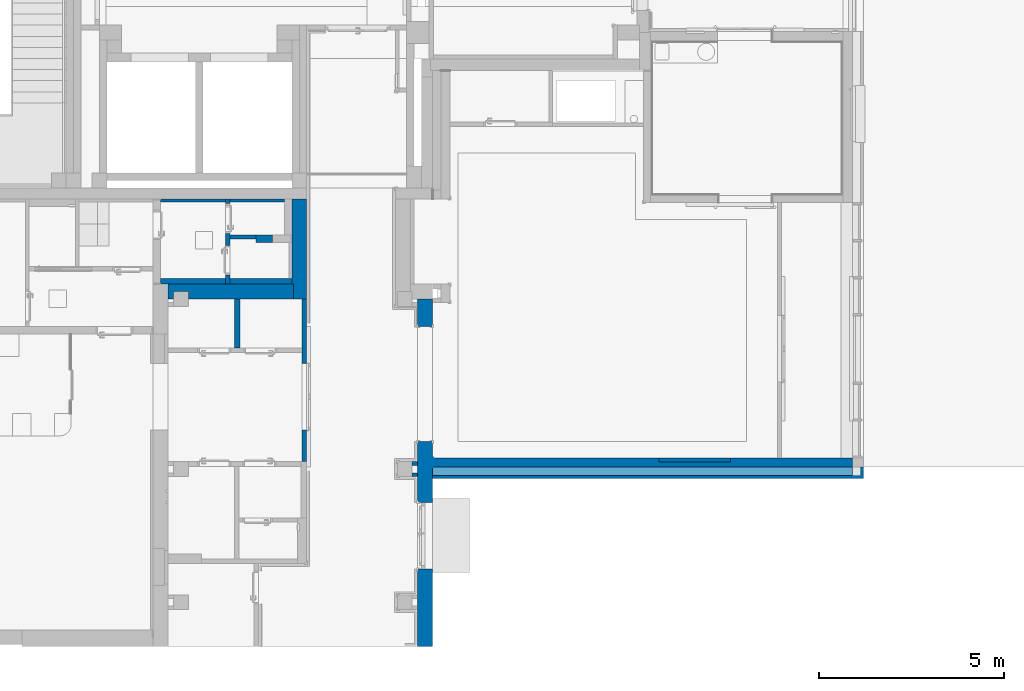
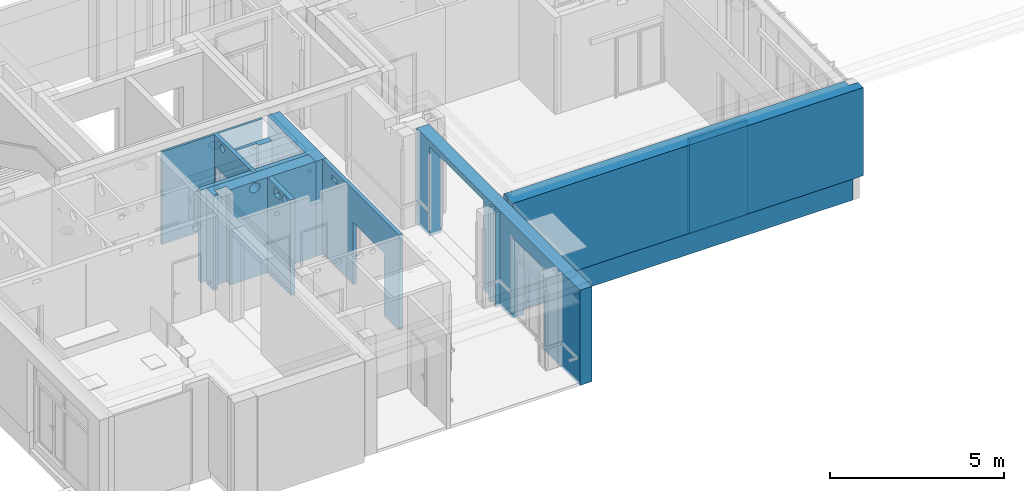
# One storey, part 30 of 140: 18 walls, 13 openings.
"""IFC4 building model written with IfcOpenShell, lengths in metres."""

from ifc_helpers import new_model, entity, si_unit, converted_unit, derived_unit, frame, frame_2d, origin, origin_with_axes, place, context, subcontext, project, spatial, polyline, rectangle, outline, extrude, clip, bounded_halfspace, material, layer, layer_set, layer_usage, element, save


model = new_model("IFC4")

# Units and contexts
model_context = context("Model", 3, precision=1e-05, world=origin())
body_context = subcontext(model_context, "Body", "Model", "MODEL_VIEW")
ifc_project = project(units=[si_unit("LENGTHUNIT", "METRE"), si_unit("AREAUNIT", "SQUARE_METRE"), si_unit("VOLUMEUNIT", "CUBIC_METRE"), si_unit("MASSUNIT", "GRAM", prefix="KILO"), converted_unit("PLANEANGLEUNIT", "DEGREE", entity("IfcPlaneAngleMeasure", 0.0174532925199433), si_unit("PLANEANGLEUNIT", "RADIAN"), dimensions=[0, 0, 0, 0, 0, 0, 0]), derived_unit("THERMALTRANSMITTANCEUNIT", [(si_unit("POWERUNIT", "WATT"), 1), (si_unit("THERMODYNAMICTEMPERATUREUNIT", "KELVIN"), -1), (si_unit("LENGTHUNIT", "METRE"), -2)]), derived_unit("VOLUMETRICFLOWRATEUNIT", [(si_unit("LENGTHUNIT", "METRE"), 3), (converted_unit("TIMEUNIT", "hour", entity("IfcTimeMeasure", 3600.0), si_unit("TIMEUNIT", "SECOND"), dimensions=[0, 0, 1, 0, 0, 0, 0]), -1), (si_unit("LENGTHUNIT", "METRE"), -1)])], contexts=[model_context])

# Site, building, storey
site_placement = place(None, origin())
site = spatial("IfcSite", under=ifc_project, at=site_placement, Name="3. ASŘ", CompositionType="ELEMENT")
building_placement = place(site_placement, origin())
building = spatial("IfcBuilding", under=site, at=building_placement, Name="Pavilon C", CompositionType="ELEMENT")
storey_placement = place(building_placement, origin())
storey = spatial("IfcBuildingStorey", under=building, at=storey_placement, Name="Půdorys 1.NP", CompositionType="ELEMENT", Elevation=0.0)

# Wall, opening
ifc_material_1 = material(Name="STÁVAJÍC KCE")
ifc_layer_1 = layer(ifc_material_1, 0.4)
ifc_layer_set_1 = layer_set([ifc_layer_1])
ifc_layer_usage_1 = layer_usage(ifc_layer_set_1, "AXIS2", "POSITIVE", 0.0)
wall_1_placement = place(storey_placement, frame((40.6, -6.8, -0.1), z_axis=(0.0, 0.0, 1.0), x_axis=(-1.0, 2.6749844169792e-16, 0.0)))
wall_1 = element("IfcWall", 1, at=wall_1_placement, inside=storey, material=ifc_layer_usage_1, Name="STÁVAJÍCÍ KCE", context=body_context, shape_type="SweptSolid", body=[
    extrude(outline(polyline([(-3.4, -0.400000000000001), (1.06999376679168e-16, -0.400000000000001), (2.43288415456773e-31, -9.09494701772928e-16), (-0.15, -9.49619468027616e-16), (-0.15, -0.199999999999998), (-0.55, -0.199999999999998), (-0.55, -1.05661884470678e-15), (-3.4, -9.09494701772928e-16), (-3.4, -0.400000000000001)])), frame((3.4, 0.400000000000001, 0.0), z_axis=(0.0, 0.0, 1.0), x_axis=(1.0, 0.0, 0.0)), (0.0, 0.0, 1.0), 3.35),
])
opening_1_placement = place(wall_1_placement, frame((1.85, -2.23361198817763e-15, 2.955), z_axis=(0.0, 1.0, 0.0), x_axis=(0.0, 0.0, 1.0)))
element("IfcOpeningElement", 2, at=opening_1_placement, cuts=wall_1, Name="VZT", ObjectType="Opening", context=body_context, shape_type="SweptSolid", body=[
    extrude(outline(polyline([(0.174999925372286, 0.35), (0.193292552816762, 0.349041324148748), (0.211384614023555, 0.346175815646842), (0.22907803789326, 0.341434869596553), (0.246178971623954, 0.334870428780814), (0.2625000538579, 0.326554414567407), (0.277862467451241, 0.316577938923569), (0.292097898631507, 0.305050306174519), (0.305050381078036, 0.292097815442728), (0.316578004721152, 0.277862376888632), (0.32655447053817, 0.262499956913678), (0.334870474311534, 0.246178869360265), (0.341434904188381, 0.229077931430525), (0.346175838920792, 0.211384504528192), (0.349041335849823, 0.193292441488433), (0.349999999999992, 0.174999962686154), (0.349041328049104, 0.156707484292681), (0.34617582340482, 0.138615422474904), (0.341434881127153, 0.12092199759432), (0.334870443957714, 0.103821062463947), (0.32655443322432, 0.0874999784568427), (0.316577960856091, 0.0721375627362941), (0.305050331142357, 0.0579021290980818), (0.292097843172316, 0.0449496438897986), (0.277862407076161, 0.033422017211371), (0.262499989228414, 0.023445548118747), (0.246178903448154, 0.0151295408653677), (0.229077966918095, 0.00856510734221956), (0.211384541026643, 0.00382416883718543), (0.193292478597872, 0.000958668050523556), (0.174999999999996, 0.0), (0.15670752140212, 0.000958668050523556), (0.138615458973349, 0.00382416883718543), (0.120922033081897, 0.00856510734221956), (0.103821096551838, 0.0151295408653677), (0.0875000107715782, 0.023445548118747), (0.0721375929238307, 0.033422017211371), (0.0579021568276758, 0.0449496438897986), (0.0449496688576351, 0.0579021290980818), (0.0334220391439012, 0.0721375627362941), (0.023445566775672, 0.0874999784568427), (0.0151295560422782, 0.103821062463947), (0.00856511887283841, 0.12092199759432), (0.00382417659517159, 0.138615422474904), (0.000958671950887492, 0.156707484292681), (0.0, 0.174999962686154), (0.000958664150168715, 0.193292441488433), (0.00382416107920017, 0.211384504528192), (0.00856509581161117, 0.229077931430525), (0.0151295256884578, 0.246178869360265), (0.0234455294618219, 0.262499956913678), (0.0334219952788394, 0.277862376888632), (0.0449496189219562, 0.292097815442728), (0.0579021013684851, 0.305050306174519), (0.0721375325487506, 0.316577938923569), (0.0874999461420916, 0.326554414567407), (0.103821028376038, 0.334870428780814), (0.120921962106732, 0.341434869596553), (0.138615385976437, 0.346175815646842), (0.15670744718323, 0.349041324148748), (0.174999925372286, 0.35)])), origin_with_axes(), (0.0, 0.0, 1.0), 0.4),
])

# Wall
ifc_material_2 = material(Name="STÁVAJÍC KCE")
ifc_layer_2 = layer(ifc_material_2, 0.4)
ifc_layer_set_2 = layer_set([ifc_layer_2])
ifc_layer_usage_2 = layer_usage(ifc_layer_set_2, "AXIS2", "POSITIVE", 0.0)
wall_2_placement = place(storey_placement, frame((40.55, -4.5, -0.1), z_axis=(0.0, 0.0, 1.0), x_axis=(0.0, -1.0, 0.0)))
element("IfcWall", 3, at=wall_2_placement, inside=storey, material=ifc_layer_usage_2, Name="STÁVAJÍCÍ KCE", context=body_context, shape_type="SweptSolid", body=[
    extrude(outline(polyline([(-2.7, 0.0), (-0.4, 0.0), (-0.4, 0.05), (0.0, 0.05), (0.0, 0.4), (-2.7, 0.4), (-2.7, 0.0)])), frame((2.7, 0.0, 0.0), z_axis=(0.0, 0.0, 1.0), x_axis=(1.0, 0.0, 0.0)), (0.0, 0.0, 1.0), 3.35),
])

# Wall, openings
ifc_material_3 = material(Name="STÁVAJÍC KCE")
ifc_layer_3 = layer(ifc_material_3, 0.4)
ifc_layer_set_3 = layer_set([ifc_layer_3])
ifc_layer_usage_3 = layer_usage(ifc_layer_set_3, "AXIS2", "POSITIVE", 0.0)
wall_3_placement = place(storey_placement, frame((44.35, -16.6, -0.1), z_axis=(0.0, 0.0, 1.0), x_axis=(0.0, 1.0, 0.0)))
wall_3 = element("IfcWall", 4, at=wall_3_placement, inside=storey, material=ifc_layer_usage_3, Name="STÁVAJÍCÍ KCE", context=body_context, shape_type="SweptSolid", body=[
    extrude(rectangle(XDim=9.4, YDim=0.4, at=frame_2d((4.7, 0.2), x_axis=(1.0, 0.0))), origin_with_axes(), (0.0, 0.0, 1.0), 3.35),
])
opening_2_placement = place(wall_3_placement, frame((5.55, 0.0, 0.0), z_axis=(0.0, 1.0, 0.0), x_axis=(0.0, 0.0, 1.0)))
element("IfcOpeningElement", 5, at=opening_2_placement, cuts=wall_3, Name="Dveřní otvor", ObjectType="Opening", context=body_context, shape_type="SweptSolid", body=[
    extrude(outline(polyline([(0.0, 3.1), (3.15, 3.1), (3.15, 0.0), (0.0, 0.0), (0.0, 3.1)])), origin_with_axes(), (0.0, 0.0, 1.0), 0.4),
])
opening_3_placement = place(wall_3_placement, frame((2.1, 0.0, 0.0), z_axis=(0.0, 1.0, 0.0), x_axis=(0.0, 0.0, 1.0)))
element("IfcOpeningElement", 6, at=opening_3_placement, cuts=wall_3, Name="Dveřní otvor", ObjectType="Opening", context=body_context, shape_type="SweptSolid", body=[
    extrude(outline(polyline([(0.0, 1.8), (2.85, 1.8), (2.85, 0.0), (0.0, 0.0), (0.0, 1.8)])), origin_with_axes(), (0.0, 0.0, 1.0), 0.4),
])

# Walls
ifc_material_4 = material(Name="STÁVAJÍC KCE")
ifc_layer_4 = layer(ifc_material_4, 0.1)
ifc_layer_set_4 = layer_set([ifc_layer_4])
ifc_layer_usage_4 = layer_usage(ifc_layer_set_4, "AXIS2", "POSITIVE", 0.0)
wall_4_placement = place(storey_placement, frame((43.95, -11.6, -0.1), z_axis=(0.0, 0.0, 1.0), x_axis=(-1.0, 0.0, 0.0)))
element("IfcWall", 7, at=wall_4_placement, inside=storey, material=ifc_layer_usage_4, Name="STÁVAJÍCÍ KCE", context=body_context, shape_type="SweptSolid", body=[
    extrude(rectangle(XDim=0.15, YDim=0.1, at=frame_2d((0.075, 0.05), x_axis=(1.0, 0.0))), origin_with_axes(), (0.0, 0.0, 1.0), 3.35),
])
ifc_material_5 = material(Name="STÁVAJÍC KCE")
ifc_layer_5 = layer(ifc_material_5, 0.1)
ifc_layer_set_5 = layer_set([ifc_layer_5])
ifc_layer_usage_5 = layer_usage(ifc_layer_set_5, "AXIS2", "POSITIVE", 0.0)
wall_5_placement = place(storey_placement, frame((43.8, -12.0, -0.1)))
element("IfcWall", 8, at=wall_5_placement, inside=storey, material=ifc_layer_usage_5, Name="STÁVAJÍCÍ KCE", context=body_context, shape_type="SweptSolid", body=[
    extrude(rectangle(XDim=0.15, YDim=0.1, at=frame_2d((0.075, 0.05), x_axis=(1.0, 0.0))), origin_with_axes(), (0.0, 0.0, 1.0), 3.35),
])
ifc_material_6 = material(Name="EPS")
ifc_layer_6 = layer(ifc_material_6, 0.02)
ifc_layer_set_6 = layer_set([ifc_layer_6])
ifc_layer_usage_6 = layer_usage(ifc_layer_set_6, "AXIS2", "POSITIVE", 0.0)
wall_6_placement = place(storey_placement, frame((44.35, -11.5, -0.3), z_axis=(0.0, 0.0, 1.0), x_axis=(2.91038304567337e-14, -1.0, 0.0)))
element("IfcWall", 9, at=wall_6_placement, inside=storey, material=ifc_layer_usage_6, Name="EPS", context=body_context, shape_type="SweptSolid", body=[
    extrude(rectangle(XDim=0.25, YDim=0.02, at=frame_2d((0.125, 0.01), x_axis=(1.0, 0.0))), origin_with_axes(), (0.0, 0.0, 1.0), 3.7),
])
ifc_material_7 = material(Name="PERIMETR")
ifc_layer_7 = layer(ifc_material_7, 0.22)
ifc_layer_set_7 = layer_set([ifc_layer_7])
ifc_layer_usage_7 = layer_usage(ifc_layer_set_7, "AXIS2", "POSITIVE", 0.0)
wall_7_placement = place(storey_placement, frame((55.7000000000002, -11.75, -0.5), z_axis=(0.0, 0.0, 1.0), x_axis=(-1.0, 0.0, 0.0)))
element("IfcWall", 10, at=wall_7_placement, inside=storey, material=ifc_layer_usage_7, Name="PERIMETR", context=body_context, shape_type="SweptSolid", body=[
    extrude(rectangle(XDim=11.3500000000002, YDim=0.22, at=frame_2d((5.67500000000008, 0.11), x_axis=(1.0, 0.0))), origin_with_axes(), (0.0, 0.0, 1.0), 0.8),
])
ifc_material_8 = material(Name="YTONG 100")
ifc_layer_8 = layer(ifc_material_8, 0.1)
ifc_layer_set_8 = layer_set([ifc_layer_8])
ifc_layer_usage_8 = layer_usage(ifc_layer_set_8, "AXIS2", "POSITIVE", 0.0)
wall_8_placement = place(storey_placement, frame((50.4755283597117, -11.604214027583, -0.1)))
element("IfcWall", 11, at=wall_8_placement, inside=storey, material=ifc_layer_usage_8, Name="YTONG 100", context=body_context, shape_type="SweptSolid", body=[
    extrude(rectangle(XDim=1.925, YDim=0.1, at=frame_2d((0.9625, 0.05), x_axis=(1.0, 0.0))), origin_with_axes(), (0.0, 0.0, 1.0), 3.35),
])

# Wall, opening
ifc_material_9 = material(Name="ZELEZOBETONOVÁ KCE")
ifc_layer_9 = layer(ifc_material_9, 0.25)
ifc_material_10 = material(Name="MINERÁLNÍ VATA")
ifc_layer_10 = layer(ifc_material_10, 0.3)
ifc_layer_set_9 = layer_set([ifc_layer_9, ifc_layer_10])
ifc_layer_usage_9 = layer_usage(ifc_layer_set_9, "AXIS2", "POSITIVE", 0.0)
wall_9_placement = place(storey_placement, frame((55.7000000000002, -11.5, -0.3), z_axis=(0.0, 0.0, 1.0), x_axis=(-1.0, 0.0, 0.0)))
wall_9 = element("IfcWall", 12, at=wall_9_placement, inside=storey, material=ifc_layer_usage_9, Name="ZELEZOBETONOVÁ KCE", context=body_context, shape_type="Clipping", body=[
    clip(extrude(outline(polyline([(-11.3500000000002, -0.55), (-0.02, -0.55), (-0.02, -0.3), (0.0, -0.3), (0.0, 0.0), (-11.6500000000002, 0.0), (-11.6500000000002, -0.3), (-11.3500000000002, -0.3), (-11.3500000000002, -0.55)])), frame((11.3500000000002, 0.55, 0.0), z_axis=(0.0, 0.0, 1.0), x_axis=(1.0, 0.0, 0.0)), (0.0, 0.0, 1.0), 3.7), bounded_halfspace(frame((5.57166666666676, 0.35, 0.6), z_axis=(0.0, 0.0, 1.0), x_axis=(0.0, -1.0, 0.0)), True, origin_with_axes(), polyline([(-0.3, 0.55), (-0.3, 0.25), (7.27595761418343e-15, 0.25), (11.3300000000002, 0.25), (11.3500000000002, 0.25), (11.3500000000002, 0.55), (-0.3, 0.55)]))),
])
opening_4_placement = place(wall_9_placement, frame((4.01593670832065, -2.5465851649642e-14, 0.38), z_axis=(0.0, 1.0, 0.0), x_axis=(0.0, 0.0, 1.0)))
element("IfcOpeningElement", 13, at=opening_4_placement, cuts=wall_9, Name="ZTI HL. 40", ObjectType="Opening", context=body_context, shape_type="SweptSolid", body=[
    extrude(outline(polyline([(0.0, 0.04), (2.89, 0.04), (2.89, 0.0), (0.0, 0.0), (0.0, 0.04)])), origin_with_axes(), (0.0, 0.0, 1.0), 0.04),
])

# Wall, openings
ifc_material_11 = material(Name="SDK - 1 KCE + DVOJITÉ OPLÁŠTĚNÍ")
ifc_layer_11 = layer(ifc_material_11, 0.125)
ifc_layer_set_10 = layer_set([ifc_layer_11])
ifc_layer_usage_10 = layer_usage(ifc_layer_set_10, "AXIS2", "POSITIVE", 0.0)
wall_10_placement = place(storey_placement, frame((40.95, -11.6, -0.1), z_axis=(0.0, 0.0, 1.0), x_axis=(0.0, 1.0, 0.0)))
wall_10 = element("IfcWall", 14, at=wall_10_placement, inside=storey, material=ifc_layer_usage_10, Name="SDK - 1 KCE + DVOJITÉ OPLÁŠTĚNÍ", context=body_context, shape_type="SweptSolid", body=[
    extrude(rectangle(XDim=4.4, YDim=0.125, at=frame_2d((2.2, 0.0625), x_axis=(1.0, 0.0))), origin_with_axes(), (0.0, 0.0, 1.0), 3.35),
])
opening_5_placement = place(wall_10_placement, frame((2.64999999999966, 0.125, 0.0), z_axis=(0.0, -1.0, 0.0), x_axis=(0.0, 0.0, 1.0)))
element("IfcOpeningElement", 15, at=opening_5_placement, cuts=wall_10, Name="Dveřní otvor", ObjectType="Opening", context=body_context, shape_type="SweptSolid", body=[
    extrude(outline(polyline([(0.0, 1.8), (2.2, 1.8), (2.2, 0.0), (0.0, 0.0), (0.0, 1.8)])), origin_with_axes(), (0.0, 0.0, 1.0), 0.125),
])
opening_6_placement = place(wall_10_placement, frame((3.56300000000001, 7.27595761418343e-15, 2.97), z_axis=(0.0, 1.0, 0.0), x_axis=(0.0, 0.0, 1.0)))
element("IfcOpeningElement", 16, at=opening_6_placement, cuts=wall_10, Name="ZTI", ObjectType="Opening", context=body_context, shape_type="SweptSolid", body=[
    extrude(outline(polyline([(0.0, 0.33), (0.15, 0.33), (0.15, 0.0), (0.0, 0.0), (0.0, 0.33)])), origin_with_axes(), (0.0, 0.0, 1.0), 0.125),
])

# Walls
ifc_material_12 = material(Name="SDK OPL. PROFESÍ/SDK OPL. BEZ PO")
ifc_layer_12 = layer(ifc_material_12, 0.075)
ifc_layer_set_11 = layer_set([ifc_layer_12])
ifc_layer_usage_11 = layer_usage(ifc_layer_set_11, "AXIS2", "POSITIVE", 0.0)
wall_11_placement = place(storey_placement, frame((38.75, -4.5, 0.0), z_axis=(0.0, 0.0, 1.0), x_axis=(-1.0, 0.0, 0.0)))
element("IfcWall", 17, at=wall_11_placement, inside=storey, material=ifc_layer_usage_11, Name="SDK OPL. PROFESÍ/SDK OPL. BEZ PO", context=body_context, shape_type="SweptSolid", body=[
    extrude(rectangle(XDim=1.75, YDim=0.075, at=frame_2d((0.875, 0.0375), x_axis=(1.0, 0.0))), origin_with_axes(), (0.0, 0.0, 1.0), 3.25),
])
ifc_material_13 = material(Name="SDK OPL. PROFESÍ/SDK OPL. BEZ PO")
ifc_layer_13 = layer(ifc_material_13, 0.075)
ifc_layer_set_12 = layer_set([ifc_layer_13])
ifc_layer_usage_12 = layer_usage(ifc_layer_set_12, "AXIS2", "POSITIVE", 0.0)
wall_12_placement = place(storey_placement, frame((40.35, -4.5, 0.0), z_axis=(0.0, 0.0, 1.0), x_axis=(-1.0, 0.0, 0.0)))
element("IfcWall", 18, at=wall_12_placement, inside=storey, material=ifc_layer_usage_12, Name="SDK OPL. PROFESÍ/SDK OPL. BEZ PO", context=body_context, shape_type="SweptSolid", body=[
    extrude(rectangle(XDim=1.475, YDim=0.075, at=frame_2d((0.7375, 0.0375), x_axis=(1.0, 0.0))), origin_with_axes(), (0.0, 0.0, 1.0), 3.25),
])

# Wall, openings
ifc_material_14 = material(Name="SDK - 1 KCE + DVOJITÉ OPLÁŠTĚNÍ")
ifc_layer_14 = layer(ifc_material_14, 0.15)
ifc_layer_set_13 = layer_set([ifc_layer_14])
ifc_layer_usage_13 = layer_usage(ifc_layer_set_13, "AXIS2", "POSITIVE", -0.15)
wall_13_placement = place(storey_placement, frame((39.15, -8.525, -0.1), z_axis=(0.0, 0.0, 1.0), x_axis=(0.0, 1.0, 0.0)))
wall_13 = element("IfcWall", 19, at=wall_13_placement, inside=storey, material=ifc_layer_usage_13, Name="SDK - 1 KCE + DVOJITÉ OPLÁŠTĚNÍ", context=body_context, shape_type="SweptSolid", body=[
    extrude(rectangle(XDim=1.325, YDim=0.15, at=frame_2d((0.662499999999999, 0.075), x_axis=(1.0, 0.0))), origin_with_axes(), (0.0, 0.0, 1.0), 3.35),
])
opening_7_placement = place(wall_13_placement, frame((0.468500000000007, 0.15, 3.05), z_axis=(0.0, -1.0, 0.0), x_axis=(0.0, 0.0, 1.0)))
element("IfcOpeningElement", 20, at=opening_7_placement, cuts=wall_13, Name="VZT", ObjectType="Opening", context=body_context, shape_type="SweptSolid", body=[
    extrude(outline(polyline([(0.124999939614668, 0.0), (0.111933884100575, 0.00068476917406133), (0.0990109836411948, 0.00273156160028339), (0.0863728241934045, 0.00611795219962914), (0.0741578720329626, 0.0108068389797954), (0.0624999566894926, 0.0167468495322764), (0.0515268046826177, 0.0238729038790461), (0.0413586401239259, 0.0321069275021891), (0.0321068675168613, 0.0413587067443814), (0.0238728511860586, 0.0515268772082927), (0.0167468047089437, 0.0625000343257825), (0.0108068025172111, 0.074157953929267), (0.00611792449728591, 0.0863729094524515), (0.00273154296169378, 0.0990110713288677), (0.00068475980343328, 0.11193397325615), (0.0, 0.125000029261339), (0.000684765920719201, 0.138066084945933), (0.00273155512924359, 0.150988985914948), (0.00611794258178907, 0.163627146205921), (0.01080682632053, 0.175842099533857), (0.0167468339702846, 0.187500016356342), (0.0238728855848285, 0.198473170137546), (0.0321069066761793, 0.208641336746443), (0.0413586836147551, 0.217893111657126), (0.051526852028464, 0.226127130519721), (0.0625000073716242, 0.233253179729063), (0.0741579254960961, 0.239193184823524), (0.0863728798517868, 0.243882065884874), (0.0990110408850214, 0.247268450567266), (0.111933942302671, 0.249315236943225), (0.124999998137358, 0.25), (0.138066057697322, 0.249315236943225), (0.150988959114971, 0.247268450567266), (0.163627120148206, 0.243882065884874), (0.175842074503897, 0.239193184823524), (0.187499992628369, 0.233253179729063), (0.198473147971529, 0.226127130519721), (0.208641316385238, 0.217893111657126), (0.217893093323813, 0.208641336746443), (0.226127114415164, 0.198473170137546), (0.233253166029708, 0.187500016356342), (0.239193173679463, 0.175842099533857), (0.243882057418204, 0.163627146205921), (0.247268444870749, 0.150988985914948), (0.249315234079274, 0.138066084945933), (0.249999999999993, 0.125000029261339), (0.249315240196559, 0.11193397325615), (0.247268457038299, 0.0990110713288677), (0.243882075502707, 0.0863729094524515), (0.239193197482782, 0.074157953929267), (0.233253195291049, 0.0625000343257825), (0.226127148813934, 0.0515268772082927), (0.217893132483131, 0.0413587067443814), (0.208641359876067, 0.0321069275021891), (0.198473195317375, 0.0238729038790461), (0.1875000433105, 0.0167468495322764), (0.17584212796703, 0.0108068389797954), (0.163627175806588, 0.00611795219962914), (0.150989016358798, 0.00273156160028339), (0.138066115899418, 0.00068476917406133), (0.124999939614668, 0.0)])), origin_with_axes(), (0.0, 0.0, 1.0), 0.15),
])
opening_8_placement = place(wall_13_placement, frame((0.601046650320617, 0.0, 2.97), z_axis=(0.0, 1.0, 0.0), x_axis=(0.0, 0.0, 1.0)))
element("IfcOpeningElement", 21, at=opening_8_placement, cuts=wall_13, Name="VZT+ZTI", ObjectType="Opening", context=body_context, shape_type="SweptSolid", body=[
    extrude(outline(polyline([(0.0, 0.36), (0.265, 0.36), (0.265, 0.0), (0.0, 0.0), (0.0, 0.36)])), origin_with_axes(), (0.0, 0.0, 1.0), 0.15),
])

ifc_material_15 = material(Name="SDK - 1 KCE + DVOJITÉ OPLÁŠTĚNÍ")
ifc_layer_15 = layer(ifc_material_15, 0.125)
ifc_layer_set_14 = layer_set([ifc_layer_15])
ifc_layer_usage_14 = layer_usage(ifc_layer_set_14, "AXIS2", "POSITIVE", -0.125)
wall_14_placement = place(storey_placement, frame((38.875, -6.8, -0.1), z_axis=(0.0, 0.0, 1.0), x_axis=(0.0, 1.0, 0.0)))
wall_14 = element("IfcWall", 22, at=wall_14_placement, inside=storey, material=ifc_layer_usage_14, Name="SDK - 1 KCE + DVOJITÉ OPLÁŠTĚNÍ", context=body_context, shape_type="SweptSolid", body=[
    extrude(rectangle(XDim=2.3, YDim=0.125, at=frame_2d((1.15, 0.0625), x_axis=(1.0, 0.0))), origin_with_axes(), (0.0, 0.0, 1.0), 3.35),
])
opening_9_placement = place(wall_14_placement, frame((1.05, 0.125, -0.2), z_axis=(0.0, -1.0, 0.0), x_axis=(0.0, 0.0, 1.0)))
element("IfcOpeningElement", 23, at=opening_9_placement, cuts=wall_14, Name="Dveřní otvor", ObjectType="Opening", context=body_context, shape_type="SweptSolid", body=[
    extrude(outline(polyline([(0.0, 0.8), (2.45, 0.8), (2.45, 0.0), (0.0, 0.0), (0.0, 0.8)])), origin_with_axes(), (0.0, 0.0, 1.0), 0.125),
])
opening_10_placement = place(wall_14_placement, frame((1.375, 0.0, -0.2), z_axis=(0.0, 1.0, 0.0), x_axis=(0.0, 0.0, 1.0)))
element("IfcOpeningElement", 24, at=opening_10_placement, cuts=wall_14, Name="Dveřní otvor", ObjectType="Opening", context=body_context, shape_type="SweptSolid", body=[
    extrude(outline(polyline([(0.0, 0.8), (2.45, 0.8), (2.45, 0.0), (0.0, 0.0), (0.0, 0.8)])), origin_with_axes(), (0.0, 0.0, 1.0), 0.125),
])
opening_11_placement = place(wall_14_placement, frame((1.89999999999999, 0.125000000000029, 3.005), z_axis=(0.0, -1.0, 0.0), x_axis=(0.0, 0.0, 1.0)))
element("IfcOpeningElement", 25, at=opening_11_placement, cuts=wall_14, Name="VZT", ObjectType="Opening", context=body_context, shape_type="SweptSolid", body=[
    extrude(outline(polyline([(0.124999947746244, 0.0), (0.11193389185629, 0.000684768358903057), (0.099010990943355, 0.00273156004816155), (0.0863728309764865, 0.00611794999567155), (0.0741578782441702, 0.0108068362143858), (0.0624999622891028, 0.0167468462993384), (0.0515268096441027, 0.0238729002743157), (0.0413586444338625, 0.0321069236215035), (0.0321068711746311, 0.0413587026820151), (0.0238728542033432, 0.0515268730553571), (0.0167468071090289, 0.0625000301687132), (0.0108068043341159, 0.0741579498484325), (0.00611792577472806, 0.0863729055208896), (0.00273154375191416, 0.0990110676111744), (0.000684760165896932, 0.111933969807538), (0.0, 0.125000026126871), (0.000684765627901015, 0.138066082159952), (0.00273155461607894, 0.150988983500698), (0.00611794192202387, 0.163627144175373), (0.0108068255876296, 0.175842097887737), (0.0167468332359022, 0.187500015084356), (0.0238728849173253, 0.198473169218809), (0.0321069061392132, 0.208641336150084), (0.0413586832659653, 0.217893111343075), (0.0515268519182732, 0.226127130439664), (0.0625000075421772, 0.233253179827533), (0.0741579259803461, 0.239193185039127), (0.0863728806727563, 0.243882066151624), (0.0990110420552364, 0.247268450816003), (0.111933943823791, 0.249315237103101), (0.124999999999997, 0.25), (0.138066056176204, 0.249315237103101), (0.150988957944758, 0.247268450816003), (0.163627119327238, 0.243882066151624), (0.175842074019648, 0.239193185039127), (0.187499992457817, 0.233253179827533), (0.198473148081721, 0.226127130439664), (0.208641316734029, 0.217893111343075), (0.217893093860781, 0.208641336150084), (0.226127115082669, 0.198473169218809), (0.233253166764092, 0.187500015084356), (0.239193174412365, 0.175842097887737), (0.243882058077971, 0.163627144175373), (0.247268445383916, 0.150988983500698), (0.249315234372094, 0.138066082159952), (0.249999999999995, 0.125000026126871), (0.249315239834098, 0.111933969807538), (0.24726845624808, 0.0990110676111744), (0.243882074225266, 0.0863729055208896), (0.239193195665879, 0.0741579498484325), (0.233253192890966, 0.0625000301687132), (0.226127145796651, 0.0515268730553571), (0.217893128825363, 0.0413587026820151), (0.208641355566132, 0.0321069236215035), (0.198473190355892, 0.0238729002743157), (0.187500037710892, 0.0167468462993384), (0.175842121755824, 0.0108068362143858), (0.163627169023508, 0.00611794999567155), (0.15098900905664, 0.00273156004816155), (0.138066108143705, 0.000684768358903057), (0.124999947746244, 0.0)])), origin_with_axes(), (0.0, 0.0, 1.0), 0.125),
])

# Wall, opening
ifc_material_16 = material(Name="SDK INSTAL. PŘDSTĚNA VYSOKÁ")
ifc_layer_16 = layer(ifc_material_16, 0.15)
ifc_layer_set_15 = layer_set([ifc_layer_16])
ifc_layer_usage_15 = layer_usage(ifc_layer_set_15, "AXIS2", "POSITIVE", 0.0)
wall_15_placement = place(storey_placement, frame((37.0, -6.8, 0.0)))
wall_15 = element("IfcWall", 26, at=wall_15_placement, inside=storey, material=ifc_layer_usage_15, Name="SDK INSTAL. PŘDSTĚNA VYSOKÁ", context=body_context, shape_type="SweptSolid", body=[
    extrude(rectangle(XDim=1.75, YDim=0.15, at=frame_2d((0.875, 0.075), x_axis=(1.0, 0.0))), origin_with_axes(), (0.0, 0.0, 1.0), 3.25),
])
opening_12_placement = place(wall_15_placement, frame((1.75, 0.150000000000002, 2.855), z_axis=(0.0, -1.0, 0.0), x_axis=(0.0, 0.0, 1.0)))
element("IfcOpeningElement", 27, at=opening_12_placement, cuts=wall_15, Name="VZT", ObjectType="Opening", context=body_context, shape_type="SweptSolid", body=[
    extrude(outline(polyline([(0.174999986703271, 0.35), (0.193292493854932, 0.349041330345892), (0.211384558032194, 0.34617582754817), (0.229077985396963, 0.341434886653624), (0.24617892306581, 0.334870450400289), (0.262500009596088, 0.326554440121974), (0.277862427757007, 0.316577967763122), (0.292097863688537, 0.305050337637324), (0.305050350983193, 0.29209784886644), (0.316577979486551, 0.277862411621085), (0.32655445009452, 0.26249999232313), (0.334870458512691, 0.246178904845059), (0.341434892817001, 0.229077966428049), (0.346175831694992, 0.211384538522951), (0.349041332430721, 0.193292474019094), (0.35, 0.174999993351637), (0.349041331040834, 0.156707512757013), (0.346175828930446, 0.138615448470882), (0.341434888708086, 0.120922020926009), (0.334870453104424, 0.103821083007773), (0.326554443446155, 0.0874999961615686), (0.316577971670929, 0.07213757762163), (0.305050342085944, 0.0579021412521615), (0.292097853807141, 0.0449496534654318), (0.277862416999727, 0.0334220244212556), (0.262499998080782, 0.0234455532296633), (0.246178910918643, 0.0151295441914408), (0.229077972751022, 0.008565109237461), (0.211384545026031, 0.00382416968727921), (0.193292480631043, 0.000958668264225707), (0.175, 0.0), (0.156707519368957, 0.000958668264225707), (0.138615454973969, 0.00382416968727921), (0.120922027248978, 0.008565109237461), (0.103821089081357, 0.0151295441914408), (0.0875000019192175, 0.0234455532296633), (0.0721375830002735, 0.0334220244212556), (0.0579021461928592, 0.0449496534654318), (0.0449496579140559, 0.0579021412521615), (0.0334220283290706, 0.07213757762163), (0.0234455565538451, 0.0874999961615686), (0.0151295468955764, 0.103821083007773), (0.00856511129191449, 0.120922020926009), (0.00382417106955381, 0.138615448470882), (0.000958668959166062, 0.156707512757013), (0.0, 0.174999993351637), (0.000958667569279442, 0.193292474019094), (0.00382416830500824, 0.211384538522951), (0.00856510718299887, 0.229077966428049), (0.0151295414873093, 0.246178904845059), (0.0234455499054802, 0.26249999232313), (0.0334220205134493, 0.277862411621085), (0.0449496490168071, 0.29209784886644), (0.0579021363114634, 0.305050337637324), (0.0721375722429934, 0.316577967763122), (0.0874999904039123, 0.326554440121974), (0.10382107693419, 0.334870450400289), (0.120922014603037, 0.341434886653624), (0.138615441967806, 0.34617582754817), (0.156707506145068, 0.349041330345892), (0.174999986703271, 0.35)])), origin_with_axes(), (0.0, 0.0, 1.0), 0.15),
])

# Wall
ifc_material_17 = material(Name="SDK INSTAL. PŘDSTĚNA VYSOKÁ")
ifc_layer_17 = layer(ifc_material_17, 0.15)
ifc_layer_set_16 = layer_set([ifc_layer_17])
ifc_layer_usage_16 = layer_usage(ifc_layer_set_16, "AXIS2", "POSITIVE", 0.0)
wall_16_placement = place(storey_placement, frame((38.875, -6.8, 0.0)))
element("IfcWall", 28, at=wall_16_placement, inside=storey, material=ifc_layer_usage_16, Name="SDK INSTAL. PŘDSTĚNA VYSOKÁ", context=body_context, shape_type="SweptSolid", body=[
    extrude(rectangle(XDim=1.675, YDim=0.15, at=frame_2d((0.8375, 0.075), x_axis=(1.0, 0.0))), origin_with_axes(), (0.0, 0.0, 1.0), 3.25),
])

# Wall, opening
ifc_material_18 = material(Name="SDK - 1 KCE + DVOJITÉ OPLÁŠTĚNÍ")
ifc_layer_18 = layer(ifc_material_18, 0.1)
ifc_layer_set_17 = layer_set([ifc_layer_18])
ifc_layer_usage_17 = layer_usage(ifc_layer_set_17, "AXIS2", "POSITIVE", -0.1)
wall_17_placement = place(storey_placement, frame((38.875, -5.575, -0.1)))
wall_17 = element("IfcWall", 29, at=wall_17_placement, inside=storey, material=ifc_layer_usage_17, Name="SDK - 1 KCE + DVOJITÉ OPLÁŠTĚNÍ", context=body_context, shape_type="SweptSolid", body=[
    extrude(rectangle(XDim=0.699997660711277, YDim=0.1, at=frame_2d((0.349998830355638, 0.05), x_axis=(1.0, 0.0))), origin_with_axes(), (0.0, 0.0, 1.0), 3.35),
])
opening_13_placement = place(wall_17_placement, frame((0.699997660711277, 0.1, 3.00500000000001), z_axis=(0.0, -1.0, 0.0), x_axis=(0.0, 0.0, 1.0)))
element("IfcOpeningElement", 30, at=opening_13_placement, cuts=wall_17, Name="VZT", ObjectType="Opening", context=body_context, shape_type="SweptSolid", body=[
    extrude(outline(polyline([(0.124999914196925, 0.25), (0.138066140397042, 0.249315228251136), (0.150989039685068, 0.247268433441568), (0.163627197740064, 0.243882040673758), (0.175842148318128, 0.239193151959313), (0.187500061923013, 0.233253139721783), (0.198473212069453, 0.226127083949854), (0.208641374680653, 0.217893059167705), (0.217893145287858, 0.208641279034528), (0.226127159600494, 0.198473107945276), (0.233253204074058, 0.187499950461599), (0.239193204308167, 0.175842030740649), (0.243882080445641, 0.163627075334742), (0.247268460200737, 0.150988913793), (0.249315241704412, 0.138066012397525), (0.249999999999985, 0.12499995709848), (0.249315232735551, 0.111933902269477), (0.24726844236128, 0.0990110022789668), (0.24388205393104, 0.0863728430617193), (0.239193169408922, 0.0741578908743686), (0.233253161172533, 0.0624999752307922), (0.226127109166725, 0.0515268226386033), (0.21789308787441, 0.0413586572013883), (0.208641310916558, 0.0321068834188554), (0.198473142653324, 0.0238728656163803), (0.187499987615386, 0.0167468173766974), (0.175842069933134, 0.0108068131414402), (0.163627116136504, 0.00611793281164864), (0.150988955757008, 0.00273154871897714), (0.138066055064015, 0.00068476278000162), (0.124999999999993, 0.0), (0.11193394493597, 0.00068476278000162), (0.0990110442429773, 0.00273154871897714), (0.0863728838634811, 0.00611793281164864), (0.0741579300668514, 0.0108068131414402), (0.0625000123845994, 0.0167468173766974), (0.0515268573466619, 0.0238728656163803), (0.0413586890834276, 0.0321068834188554), (0.0321069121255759, 0.0413586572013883), (0.02387289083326, 0.0515268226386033), (0.0167468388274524, 0.0624999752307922), (0.0108068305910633, 0.0741578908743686), (0.00611794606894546, 0.0863728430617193), (0.00273155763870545, 0.0990110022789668), (0.000684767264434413, 0.111933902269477), (0.0, 0.12499995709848), (0.000684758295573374, 0.138066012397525), (0.00273153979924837, 0.150988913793), (0.00611791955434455, 0.163627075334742), (0.0108067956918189, 0.175842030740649), (0.016746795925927, 0.187499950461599), (0.0238728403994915, 0.198473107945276), (0.0321068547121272, 0.208641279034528), (0.0413586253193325, 0.217893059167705), (0.0515267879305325, 0.226127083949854), (0.0624999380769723, 0.233253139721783), (0.0741578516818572, 0.239193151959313), (0.0863728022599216, 0.243882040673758), (0.0990109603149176, 0.247268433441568), (0.111933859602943, 0.249315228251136), (0.124999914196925, 0.25)])), origin_with_axes(), (0.0, 0.0, 1.0), 0.1),
])

# Wall
ifc_material_19 = material(Name="SDK - 1 KCE + DVOJITÉ OPLÁŠTĚNÍ")
ifc_layer_19 = layer(ifc_material_19, 0.2)
ifc_layer_set_18 = layer_set([ifc_layer_19])
ifc_layer_usage_18 = layer_usage(ifc_layer_set_18, "AXIS2", "POSITIVE", -0.2)
wall_18_placement = place(storey_placement, frame((39.5749976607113, -5.675, -0.1)))
element("IfcWall", 31, at=wall_18_placement, inside=storey, material=ifc_layer_usage_18, Name="SDK - 1 KCE + DVOJITÉ OPLÁŠTĚNÍ", context=body_context, shape_type="SweptSolid", body=[
    extrude(rectangle(XDim=0.455002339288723, YDim=0.2, at=frame_2d((0.227501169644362, 0.1), x_axis=(1.0, 0.0))), origin_with_axes(), (0.0, 0.0, 1.0), 3.35),
])

save(model, "model.ifc")
